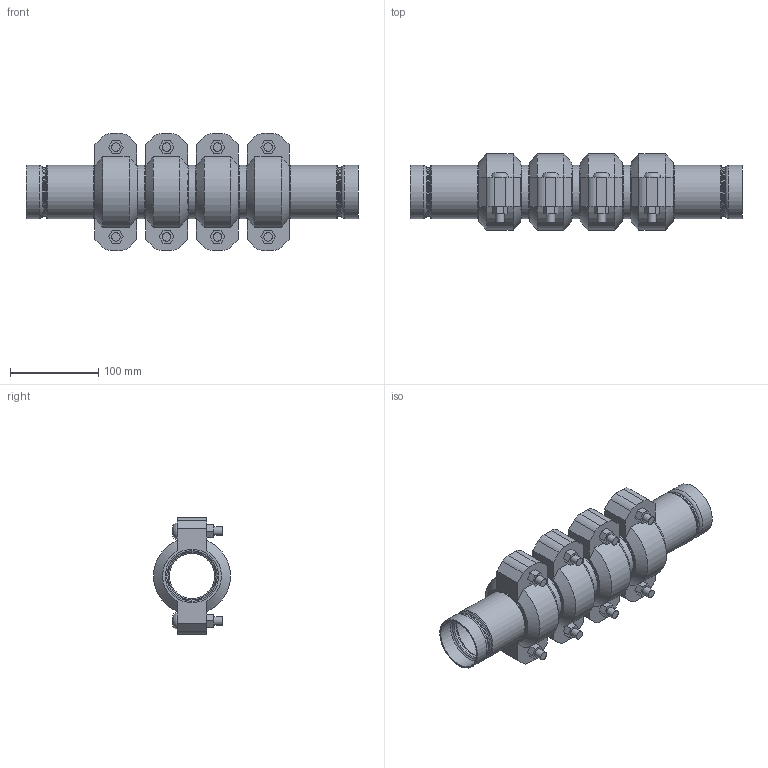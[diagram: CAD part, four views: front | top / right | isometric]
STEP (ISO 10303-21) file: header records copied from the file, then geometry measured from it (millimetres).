
FILE_DESCRIPTION(/* description */ ('VIC STRENGTHIN 100 EXPANSION JOINT 4 COUPLINGS COMPRESSED STYLE E155 (ST1)','CAx-IF Rec.Pracs.---Representation and Presentation of Product Manufacturing Information (PMI)---4.0---2014-10-13'),/* implementation_level */ '2;1');
FILE_NAME(/* name */ 'C:\Users\Vjadhav\AppData\Roaming\Autodesk\ApplicationPlugins\Victaulic.Temp\A975\Victaulic_SS-StrengThin 100_Expansion Joint_Compressed_4 Couplings_Style E155 (ST1)_2 (50).stp',/* time_stamp */ '2021-07-23T12:31:18+05:00',/* author */ ('kkamble'),/* organization */ ('Victaulic'),/* preprocessor_version */ 'ST-DEVELOPER v17.2',/* originating_system */ 'Autodesk Inventor 2019',/* authorisation */ '');
FILE_SCHEMA (('CONFIG_CONTROL_DESIGN','AP242_MANAGED_MODEL_BASED_3D_ENGINEERING_MIM_LF { 1 0 10303 442 1 1 4 }'));
Length unit declared in the file: inch
Products named in the file (4): E155-02.0; E494G-02.0; Nipple-02.0; 075-02.0
Assembly tree (9 placements, depth 2):
  E155-02.0
    E494G-02.0  x2
    Nipple-02.0  x3
    075-02.0  x4
Bounding box: 375.92 x 87.12 x 132.59 mm (x, y, z)
Volume: 966124.9 mm3; surface area: 301384.1 mm2
Topology: 9 solids, 17 shells, 316 faces, 820 edges, 582 vertices
Faces by surface type: plane 166, cylinder 90, torus 32, cone 20, bspline 8
Full cylindrical faces by diameter (mm): 9.525 x16, 11.43 x8, 51.13 x2, 52.502 x3, 53.95 x2, 54.331 x2, 57.125 x6, 57.15 x8, 60.325 x19
Entity records: 3631 total; most frequent: DIRECTION 643, CARTESIAN_POINT 641, ORIENTED_EDGE 536, AXIS2_PLACEMENT_3D 273, EDGE_CURVE 268, VERTEX_POINT 193, CIRCLE 163, EDGE_LOOP 123
